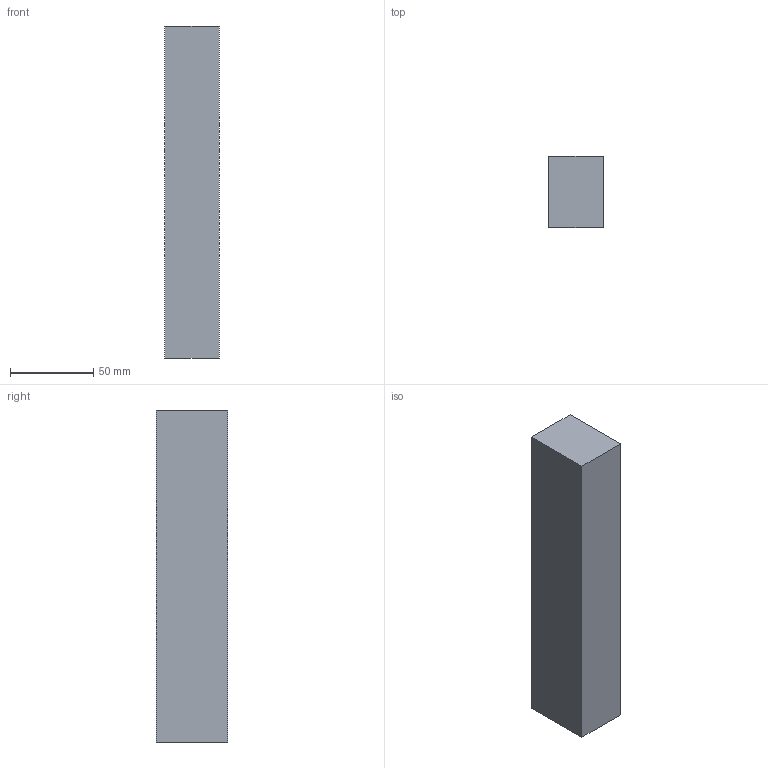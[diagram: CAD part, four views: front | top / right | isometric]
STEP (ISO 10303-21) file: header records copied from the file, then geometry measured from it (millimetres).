
FILE_DESCRIPTION(/* description */ (''),/* implementation_level */ '2;1');
FILE_NAME(/* name */ '/Users/davidflorian/Library/Mobile Documents/com~apple~CloudDocs/Vanderbilt/Papers/OTTO/Supplemental Material/3D-Printable-Components-STEP-Files/Pipette-Bin.step',/* time_stamp */ '2020-06-30T23:18:23-05:00',/* author */ (''),/* organization */ (''),/* preprocessor_version */ 'ST-DEVELOPER v18.1',/* originating_system */ 'Autodesk Translation Framework v9.3.0.1241',/* authorisation */ '');
FILE_SCHEMA (('AUTOMOTIVE_DESIGN { 1 0 10303 214 3 1 1 }'));
Length unit declared in the file: millimetre
Products named in the file (1): Tip-Trash
Bounding box: 33 x 43 x 200 mm (x, y, z)
Volume: 50315 mm3; surface area: 51348.1 mm2
Topology: 1 solids, 1 shells, 13 faces, 30 edges, 20 vertices
Faces by surface type: plane 13
Entity records: 397 total; most frequent: CARTESIAN_POINT 64, ORIENTED_EDGE 60, DIRECTION 58, LINE 30, VECTOR 30, EDGE_CURVE 30, VERTEX_POINT 20, EDGE_LOOP 14
